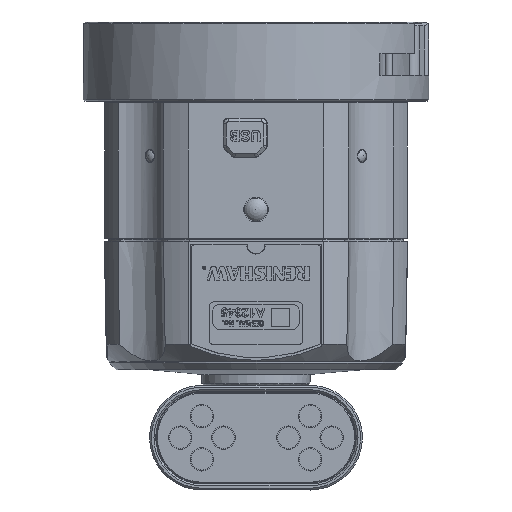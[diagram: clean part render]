
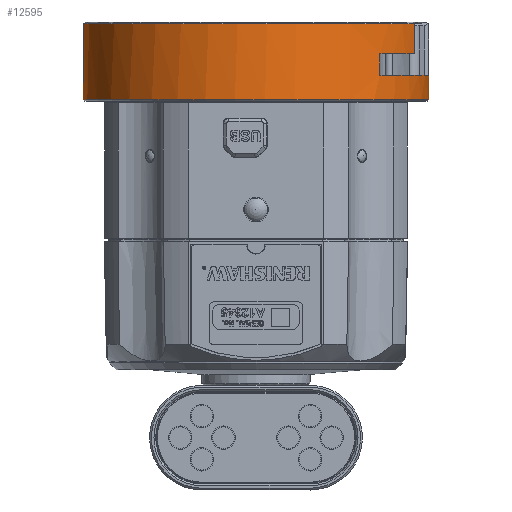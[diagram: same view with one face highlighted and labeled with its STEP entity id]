
A CAD part, left-side view. The second image highlights one B-rep face of the part: STEP entity #12595.
In plain terms, the highlighted cylindrical face has radius 47.987 mm (diameter 95.975 mm), a full revolution.
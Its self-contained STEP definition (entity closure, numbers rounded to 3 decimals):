
#8942=CYLINDRICAL_SURFACE('',#51114,47.988);
#10276=B_SPLINE_CURVE_WITH_KNOTS('',3,(#71914,#71915,#71916,#71917,#71918,
#71919,#71920,#71921,#71922,#71923,#71924,#71925,#71926),.UNSPECIFIED.,
 .T.,.F.,(1,3,3,3,3,3,1),(-0.25,0.,0.25,0.5,0.75,1.,1.25),.UNSPECIFIED.);
#11178=FACE_BOUND('',#17099,.T.);
#11179=FACE_BOUND('',#17100,.T.);
#11180=FACE_BOUND('',#17101,.T.);
#12595=ADVANCED_FACE('',(#11178,#11179,#11180),#8942,.T.);
#17099=EDGE_LOOP('',(#30138));
#17100=EDGE_LOOP('',(#30139));
#17101=EDGE_LOOP('',(#30140,#30141,#30142,#30143,#30144,#30145,#30146,#30147,
#30148,#30149,#30150,#30151));
#19743=LINE('',#71948,#23185);
#19745=LINE('',#71954,#23187);
#19748=LINE('',#71978,#23190);
#19757=LINE('',#72018,#23199);
#19761=LINE('',#72113,#23203);
#19770=LINE('',#72153,#23212);
#23185=VECTOR('',#56966,1.);
#23187=VECTOR('',#56972,1.);
#23190=VECTOR('',#56983,1.);
#23199=VECTOR('',#57016,1.);
#23203=VECTOR('',#57100,1.);
#23212=VECTOR('',#57133,1.);
#30138=ORIENTED_EDGE('',*,*,#44553,.T.);
#30139=ORIENTED_EDGE('',*,*,#44687,.T.);
#30140=ORIENTED_EDGE('',*,*,#44611,.T.);
#30141=ORIENTED_EDGE('',*,*,#44616,.T.);
#30142=ORIENTED_EDGE('',*,*,#44688,.F.);
#30143=ORIENTED_EDGE('',*,*,#44557,.F.);
#30144=ORIENTED_EDGE('',*,*,#44549,.T.);
#30145=ORIENTED_EDGE('',*,*,#44632,.T.);
#30146=ORIENTED_EDGE('',*,*,#44689,.T.);
#30147=ORIENTED_EDGE('',*,*,#44564,.T.);
#30148=ORIENTED_EDGE('',*,*,#44690,.F.);
#30149=ORIENTED_EDGE('',*,*,#44554,.F.);
#30150=ORIENTED_EDGE('',*,*,#44543,.T.);
#30151=ORIENTED_EDGE('',*,*,#44580,.T.);
#39213=VERTEX_POINT('',#71892);
#39214=VERTEX_POINT('',#71894);
#39219=VERTEX_POINT('',#71905);
#39220=VERTEX_POINT('',#71907);
#39223=VERTEX_POINT('',#71927);
#39224=VERTEX_POINT('',#71949);
#39226=VERTEX_POINT('',#71955);
#39229=VERTEX_POINT('',#71971);
#39232=VERTEX_POINT('',#71977);
#39241=VERTEX_POINT('',#72017);
#39271=VERTEX_POINT('',#72100);
#39274=VERTEX_POINT('',#72112);
#39283=VERTEX_POINT('',#72152);
#39315=VERTEX_POINT('',#72540);
#44543=EDGE_CURVE('',#39214,#39213,#48708,.T.);
#44549=EDGE_CURVE('',#39220,#39219,#48713,.T.);
#44553=EDGE_CURVE('',#39223,#39223,#10276,.T.);
#44554=EDGE_CURVE('',#39214,#39224,#19743,.T.);
#44557=EDGE_CURVE('',#39220,#39226,#19745,.T.);
#44564=EDGE_CURVE('',#39229,#39232,#19748,.T.);
#44580=EDGE_CURVE('',#39213,#39241,#19757,.T.);
#44611=EDGE_CURVE('',#39241,#39271,#48751,.T.);
#44616=EDGE_CURVE('',#39271,#39274,#19761,.T.);
#44632=EDGE_CURVE('',#39219,#39283,#19770,.T.);
#44687=EDGE_CURVE('',#39315,#39315,#48766,.T.);
#44688=EDGE_CURVE('',#39226,#39274,#48767,.T.);
#44689=EDGE_CURVE('',#39283,#39229,#48768,.T.);
#44690=EDGE_CURVE('',#39224,#39232,#48769,.T.);
#48708=CIRCLE('',#51002,47.988);
#48713=CIRCLE('',#51008,47.988);
#48751=CIRCLE('',#51067,47.988);
#48766=CIRCLE('',#51110,47.988);
#48767=CIRCLE('',#51111,47.988);
#48768=CIRCLE('',#51112,47.988);
#48769=CIRCLE('',#51113,47.988);
#51002=AXIS2_PLACEMENT_3D('',#71893,#56943,#56944);
#51008=AXIS2_PLACEMENT_3D('',#71906,#56956,#56957);
#51067=AXIS2_PLACEMENT_3D('',#72101,#57091,#57092);
#51110=AXIS2_PLACEMENT_3D('',#72539,#57228,#57229);
#51111=AXIS2_PLACEMENT_3D('',#72541,#57230,#57231);
#51112=AXIS2_PLACEMENT_3D('',#72542,#57232,#57233);
#51113=AXIS2_PLACEMENT_3D('',#72543,#57234,#57235);
#51114=AXIS2_PLACEMENT_3D('',#72544,#57236,#57237);
#56943=DIRECTION('',(0.,0.,1.));
#56944=DIRECTION('',(-0.839,-0.545,0.));
#56956=DIRECTION('',(0.,0.,1.));
#56957=DIRECTION('',(-0.839,-0.545,0.));
#56966=DIRECTION('',(0.,0.,-1.));
#56972=DIRECTION('',(0.,0.,-1.));
#56983=DIRECTION('',(0.,0.,-1.));
#57016=DIRECTION('',(0.,0.,1.));
#57091=DIRECTION('',(0.,0.,-1.));
#57092=DIRECTION('',(0.839,0.545,0.));
#57100=DIRECTION('',(0.,0.,-1.));
#57133=DIRECTION('',(0.,0.,1.));
#57228=DIRECTION('',(0.,0.,1.));
#57229=DIRECTION('',(-0.839,-0.545,0.));
#57230=DIRECTION('',(0.,0.,1.));
#57231=DIRECTION('',(-0.839,-0.545,0.));
#57232=DIRECTION('',(0.,0.,-1.));
#57233=DIRECTION('',(0.839,0.545,0.));
#57234=DIRECTION('',(0.,0.,1.));
#57235=DIRECTION('',(-0.839,-0.545,0.));
#57236=DIRECTION('',(0.,0.,-1.));
#57237=DIRECTION('',(-0.839,-0.545,0.));
#71892=CARTESIAN_POINT('',(-75.028,182.411,99.422));
#71893=CARTESIAN_POINT('',(-94.395,138.506,99.419));
#71894=CARTESIAN_POINT('',(-60.906,172.875,99.421));
#71905=CARTESIAN_POINT('',(-113.763,94.6,99.416));
#71906=CARTESIAN_POINT('',(-94.395,138.506,99.419));
#71907=CARTESIAN_POINT('',(-127.885,104.137,99.417));
#71914=CARTESIAN_POINT('',(-46.408,138.506,98.56));
#71915=CARTESIAN_POINT('',(-46.408,137.615,98.561));
#71916=CARTESIAN_POINT('',(-46.437,136.84,99.332));
#71917=CARTESIAN_POINT('',(-46.437,136.839,100.218));
#71918=CARTESIAN_POINT('',(-46.437,136.839,101.104));
#71919=CARTESIAN_POINT('',(-46.408,137.615,101.878));
#71920=CARTESIAN_POINT('',(-46.408,138.506,101.879));
#71921=CARTESIAN_POINT('',(-46.408,139.397,101.879));
#71922=CARTESIAN_POINT('',(-46.437,140.171,101.104));
#71923=CARTESIAN_POINT('',(-46.437,140.172,100.218));
#71924=CARTESIAN_POINT('',(-46.437,140.173,99.333));
#71925=CARTESIAN_POINT('',(-46.408,139.396,98.559));
#71926=CARTESIAN_POINT('',(-46.408,138.506,98.56));
#71927=CARTESIAN_POINT('',(-46.408,138.506,98.56));
#71948=CARTESIAN_POINT('',(-60.906,172.875,96.421));
#71949=CARTESIAN_POINT('',(-60.906,172.875,93.421));
#71954=CARTESIAN_POINT('',(-127.885,104.137,96.417));
#71955=CARTESIAN_POINT('',(-127.885,104.137,93.417));
#71971=CARTESIAN_POINT('',(-90.883,186.364,107.722));
#71977=CARTESIAN_POINT('',(-90.883,186.365,93.422));
#71978=CARTESIAN_POINT('',(-90.883,186.364,108.222));
#72017=CARTESIAN_POINT('',(-75.028,182.411,107.722));
#72018=CARTESIAN_POINT('',(-75.028,182.411,108.222));
#72100=CARTESIAN_POINT('',(-97.908,90.647,107.716));
#72101=CARTESIAN_POINT('',(-94.395,138.505,107.719));
#72112=CARTESIAN_POINT('',(-97.908,90.647,93.416));
#72113=CARTESIAN_POINT('',(-97.908,90.646,108.216));
#72152=CARTESIAN_POINT('',(-113.763,94.6,107.716));
#72153=CARTESIAN_POINT('',(-113.763,94.6,108.216));
#72539=CARTESIAN_POINT('',(-94.395,138.507,86.719));
#72540=CARTESIAN_POINT('',(-134.641,112.371,86.718));
#72541=CARTESIAN_POINT('',(-94.395,138.506,93.419));
#72542=CARTESIAN_POINT('',(-94.395,138.505,107.719));
#72543=CARTESIAN_POINT('',(-94.395,138.506,93.419));
#72544=CARTESIAN_POINT('',(-94.395,138.505,108.219));
